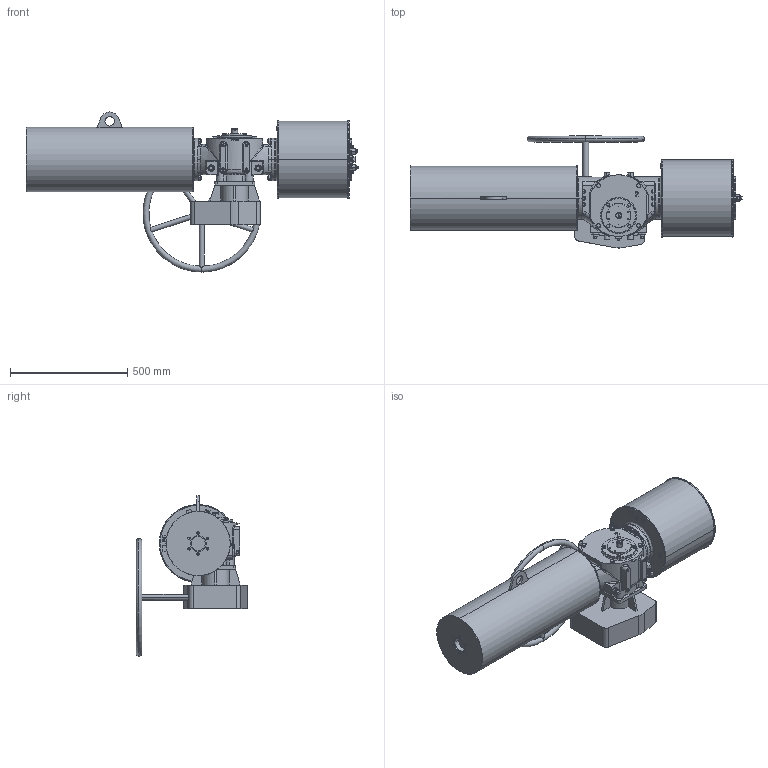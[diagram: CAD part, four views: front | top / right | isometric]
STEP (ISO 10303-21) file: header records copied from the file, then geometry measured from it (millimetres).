
FILE_DESCRIPTION (( 'STEP AP203' ), '1' );
FILE_NAME ('VTS2-300-SR-MW-FO.STEP', '2023-01-01T08:12:13', ( '' ), ( '' ), 'SwSTEP 2.0', 'SolidWorks 2020', '' );
FILE_SCHEMA (( 'CONFIG_CONTROL_DESIGN' ));
Length unit declared in the file: millimetre
Products named in the file (1): VTS2-300-SR-MW-FO
Bounding box: 1413 x 476.23 x 681.5 mm (x, y, z)
Volume: 87524570.8 mm3; surface area: 2340280.1 mm2
Topology: 5 solids, 7 shells, 1686 faces, 4278 edges, 2681 vertices
Faces by surface type: plane 636, cylinder 552, cone 333, bspline 161, torus 4
Entity records: 66919 total; most frequent: CARTESIAN_POINT 27472, ORIENTED_EDGE 8440, DIRECTION 8038, EDGE_CURVE 4220, AXIS2_PLACEMENT_3D 3157, VERTEX_POINT 2681, EDGE_LOOP 1889, VECTOR 1724
